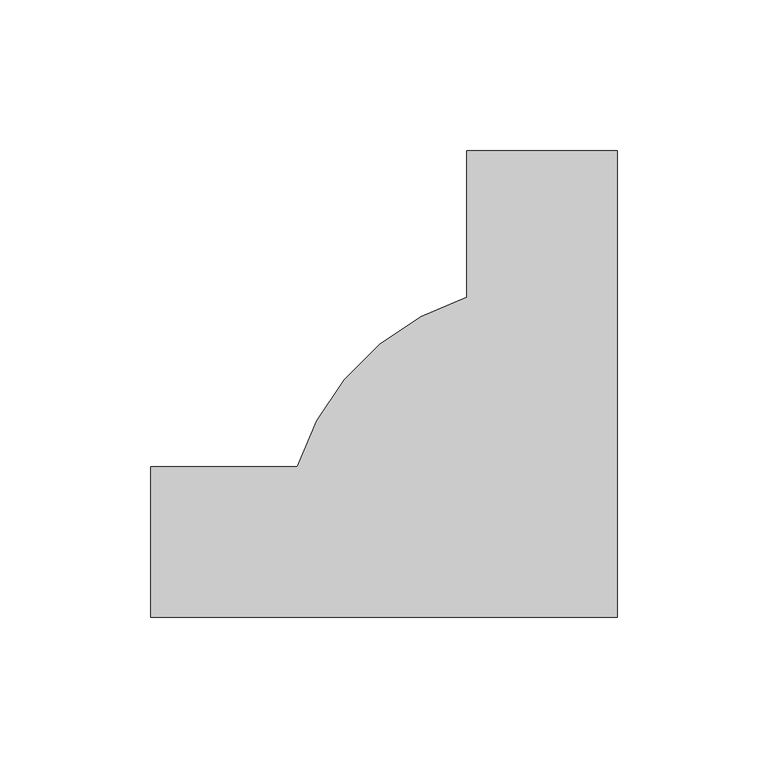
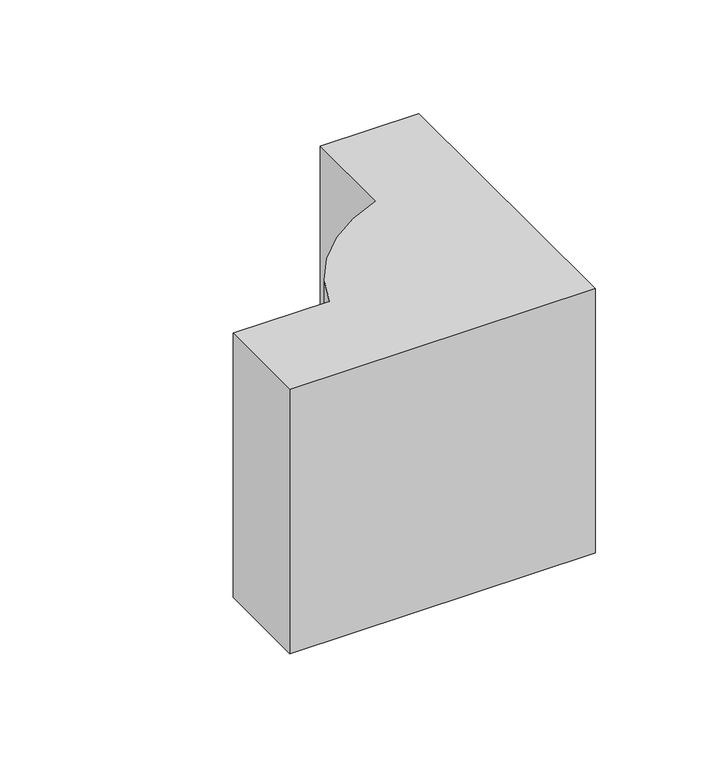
"""IFC4 building model written with IfcOpenShell, lengths in millimetres: duct fitting geometry, КНС_УголВнутренний_DKC : Угол внутренний."""

from ifc_helpers import new_model, si_unit, point, frame, origin, origin_2d, place, context, project, spatial, polyline, circle_curve, trimmed, segment, composite_curve, outline, extrude, source, transform, mapped, element, save


def duct_fitting_25aeb615(model_context):
    return source(origin(), model_context, "Body", "SweptSolid", [
        extrude(outline(composite_curve([segment(polyline([(-130.0, -25.0), (-130.0, 25.0), (-81.240384, 25.0)]), True, "CONTINUOUS"), segment(trimmed(circle_curve(origin_2d(), 85.0), [point((-81.240384, 25.0))], [point((-25.0, 81.240384))], False, "CARTESIAN"), True, "CONTINUOUS"), segment(polyline([(-25.0, 81.240384), (-25.0, 130.0), (25.0, 130.0), (25.0, -25.0), (-130.0, -25.0)]), True, "CONTINUOUS")], self_intersect=False)), frame((0.0, 0.0, -71.0), z_axis=(0.0, 0.0, 1.0), x_axis=(1.0, 0.0, 0.0)), (0.0, 0.0, 1.0), 142.0),
    ])


if __name__ == "__main__":
    model = new_model("IFC4")
    model_context = context("Model", 3, world=origin())
    ifc_project = project(units=[si_unit("LENGTHUNIT", "METRE", prefix="MILLI")], contexts=[model_context])
    site = spatial("IfcSite", under=ifc_project)
    building = spatial("IfcBuilding", under=site)
    placement = place(None, origin())
    duct_fitting_shape = duct_fitting_25aeb615(model_context)
    element("IfcDuctFitting", 1, ObjectType="КНС_УголВнутренний_DKC : Угол внутренний", at=placement, inside=building, context=model_context, shape_type="MappedRepresentation", body=[
        mapped(duct_fitting_shape, transform((0.0, 0.0, 0.0), x_axis=(1.0, 0.0, 0.0), y_axis=(0.0, 1.0, 0.0), z_axis=(0.0, 0.0, 1.0))),
    ])
    save(model, "model.ifc")
